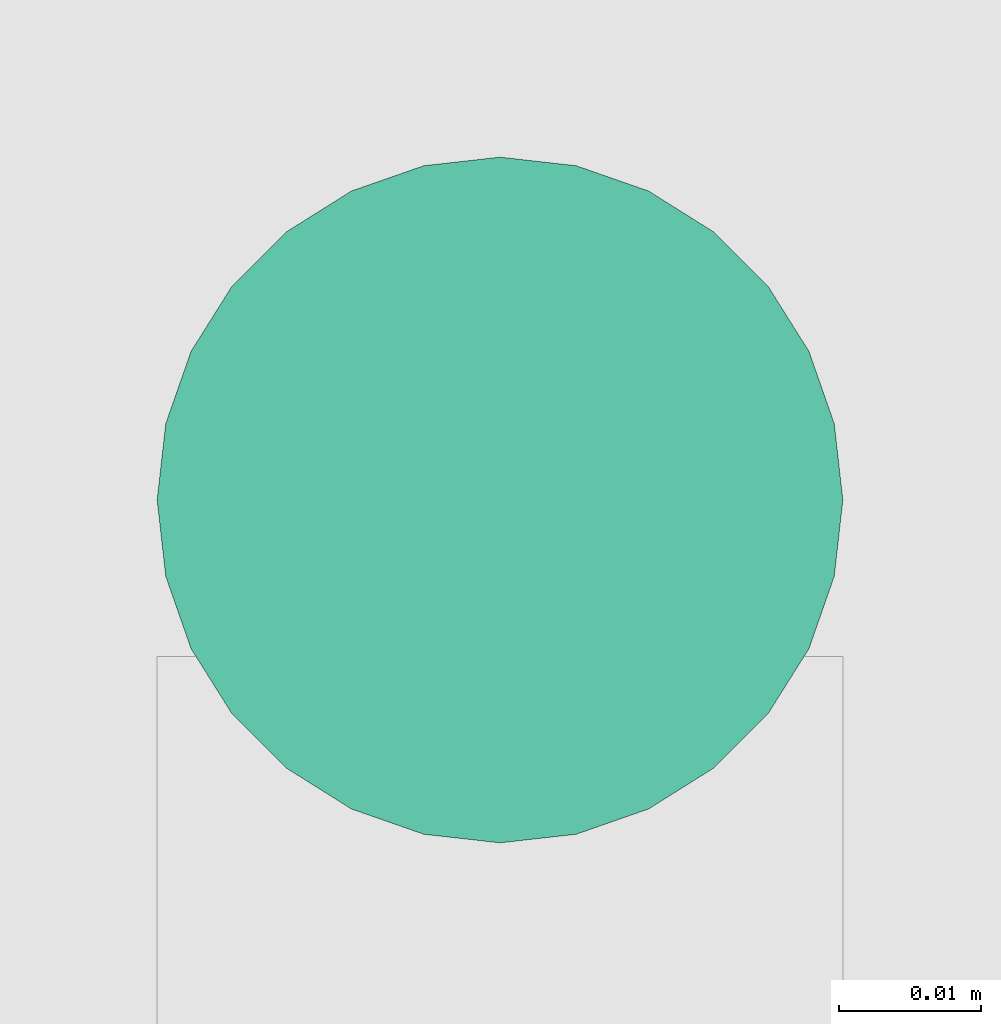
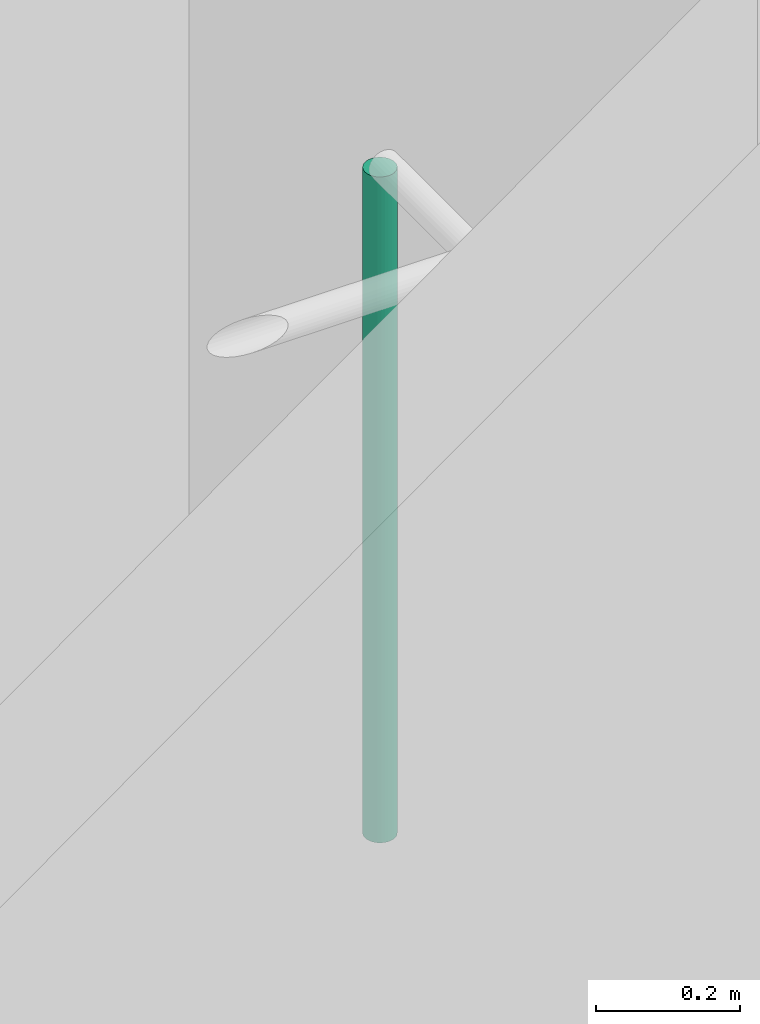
# One storey, part 34 of 69: 1 pipe segment.
"""IFC4 building model written with IfcOpenShell, lengths in centimetres."""

from ifc_helpers import new_model, entity, si_unit, converted_unit, derived_unit, direction, frame, origin, place, context, subcontext, project, spatial, arc, indexed_curve, outline, extrude, type_object, element, save


model = new_model("IFC4")

# Units and contexts
model_context = context("Model", 3, precision=0.001, world=origin(), true_north=direction((6.123233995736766e-17, 1.0)))
body_context = subcontext(model_context, "Body", "Model", "MODEL_VIEW")
ifc_project = project(units=[si_unit("LENGTHUNIT", "METRE", prefix="CENTI"), si_unit("AREAUNIT", "SQUARE_METRE"), si_unit("VOLUMEUNIT", "CUBIC_METRE"), derived_unit("THERMALTRANSMITTANCEUNIT", [(si_unit("MASSUNIT", "GRAM", prefix="KILO"), 1), (si_unit("THERMODYNAMICTEMPERATUREUNIT", "KELVIN"), -1), (si_unit("TIMEUNIT", "SECOND"), -3)]), converted_unit("PLANEANGLEUNIT", "DEGREE", entity("IfcPlaneAngleMeasure", 0.017453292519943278), si_unit("PLANEANGLEUNIT", "RADIAN"), dimensions=[0, 0, 0, 0, 0, 0, 0]), derived_unit("MASSDENSITYUNIT", [(si_unit("MASSUNIT", "GRAM", prefix="KILO"), 1), (si_unit("LENGTHUNIT", "METRE"), -3)]), derived_unit("VAPORPERMEABILITYUNIT", [(si_unit("LENGTHUNIT", "METRE"), -1), (si_unit("TIMEUNIT", "SECOND"), 1)]), derived_unit("USERDEFINED", [(si_unit("MASSUNIT", "GRAM", prefix="KILO"), 1), (si_unit("TIMEUNIT", "SECOND"), -3), (si_unit("LENGTHUNIT", "METRE"), 3), (si_unit("ELECTRICCURRENTUNIT", "AMPERE"), -2)]), derived_unit("SPECIFICHEATCAPACITYUNIT", [(si_unit("THERMODYNAMICTEMPERATUREUNIT", "KELVIN"), -1), (si_unit("LENGTHUNIT", "METRE"), 2), (si_unit("TIMEUNIT", "SECOND"), -2)]), derived_unit("THERMALCONDUCTANCEUNIT", [(si_unit("MASSUNIT", "GRAM", prefix="KILO"), 1), (si_unit("THERMODYNAMICTEMPERATUREUNIT", "KELVIN"), -1), (si_unit("TIMEUNIT", "SECOND"), -3), (si_unit("LENGTHUNIT", "METRE"), 1)]), si_unit("PRESSUREUNIT", "PASCAL"), derived_unit("MODULUSOFELASTICITYUNIT", [(si_unit("MASSUNIT", "GRAM", prefix="KILO"), 1), (si_unit("LENGTHUNIT", "METRE"), -1), (si_unit("TIMEUNIT", "SECOND"), -2)]), derived_unit("THERMALEXPANSIONCOEFFICIENTUNIT", [(si_unit("THERMODYNAMICTEMPERATUREUNIT", "KELVIN"), -1)])], contexts=[model_context])

# Site, building, storey
site_placement = place(None, origin())
site = spatial("IfcSite", under=ifc_project, at=site_placement, Name="Default", CompositionType="ELEMENT")
building_placement = place(site_placement, origin())
building = spatial("IfcBuilding", under=site, at=building_placement, Name="IDS Escape Game Building", CompositionType="ELEMENT")
storey_placement = place(building_placement, origin())
storey = spatial("IfcBuildingStorey", under=building, at=storey_placement, Name="00_Ground Floor", CompositionType="ELEMENT", Elevation=0.0)

# Pipe segment
pipe_segment_type = type_object("IfcPipeSegmentType", Name="Pipe Types:Piping Aluminum", PredefinedType="NOTDEFINED")
pipe_segment_placement = place(storey_placement, origin())
element("IfcPipeSegment", 1, at=pipe_segment_placement, inside=storey, type_object=pipe_segment_type, Name="Pipe Types:Piping Aluminum", ObjectType="Pipe Types:Piping Aluminum", PredefinedType="NOTDEFINED", context=body_context, shape_type="SweptSolid", body=[
    extrude(outline(indexed_curve([(2.4130000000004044, 0.0), (1.7062486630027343, 1.7062486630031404), (0.0, 2.412999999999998), (-1.7062486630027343, 1.7062486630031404), (-2.4130000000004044, 6.767919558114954e-15), (-1.7062486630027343, -1.7062486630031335), (0.0, -2.412999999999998), (1.7062486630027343, -1.706248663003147)], segments=[arc(1, 2, 3), arc(3, 4, 5), arc(5, 6, 7), arc(7, 8, 1)], self_intersect=False)), frame((4540.150000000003, 48.900000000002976, 128.0), z_axis=(0.0, 0.0, 1.0), x_axis=(-1.0, 0.0, 0.0)), (0.0, 0.0, 1.0), 112.90000000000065),
])

save(model, "model.ifc")
